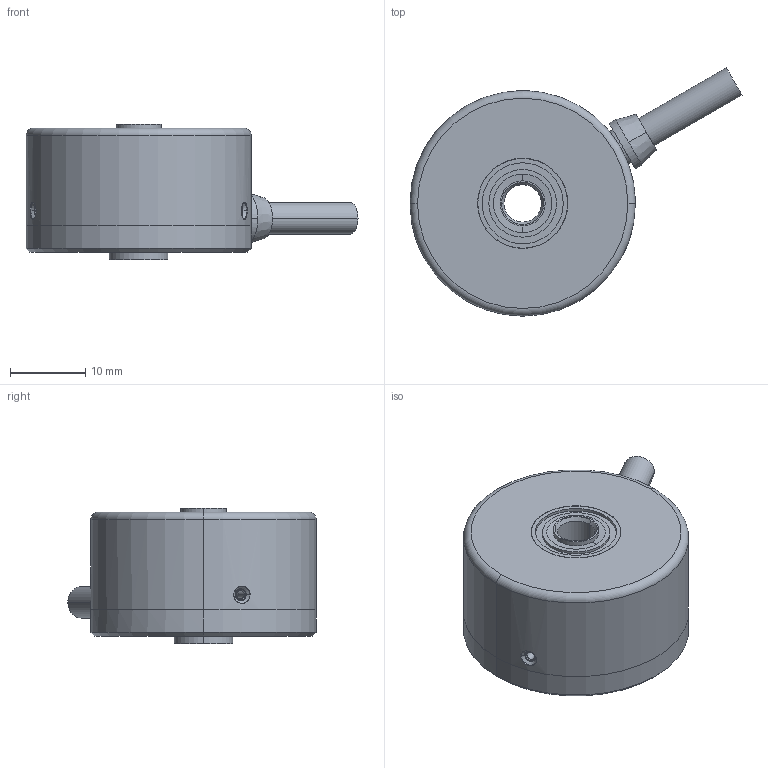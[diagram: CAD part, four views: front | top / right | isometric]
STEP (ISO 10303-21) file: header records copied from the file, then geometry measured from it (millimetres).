
FILE_DESCRIPTION(('STEP AP203'),'1');
FILE_NAME('//192.168.0.150/share/技術部/図面フォルダ（メンバー共用）/外形図データ/step/MAH-19.step','2018-03-02T00:56:57',(' '),(' '),'Spatial InterOp 3D',' ',' ');
FILE_SCHEMA(('CONFIG_CONTROL_DESIGN'));
Length unit declared in the file: millimetre
Products named in the file (8): 1; 2; 3; 4; 5; 6; 7; 8
Bounding box: 44.2 x 33.07 x 18 mm (x, y, z)
Volume: 4631.5 mm3; surface area: 7812.3 mm2
Topology: 8 solids, 8 shells, 194 faces, 457 edges, 280 vertices
Faces by surface type: cylinder 82, plane 59, cone 45, torus 8
Entity records: 6192 total; most frequent: CARTESIAN_POINT 1283, DIRECTION 1032, ORIENTED_EDGE 890, EDGE_CURVE 445, AXIS2_PLACEMENT_3D 413, VERTEX_POINT 280, EDGE_LOOP 227, CIRCLE 207
